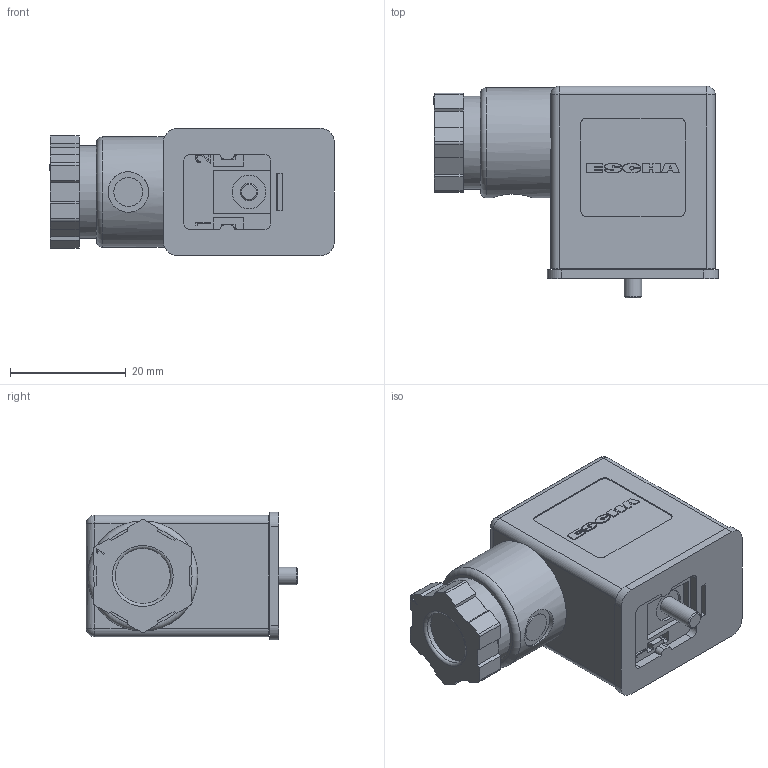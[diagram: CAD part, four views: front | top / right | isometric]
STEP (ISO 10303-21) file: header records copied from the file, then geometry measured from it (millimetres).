
FILE_DESCRIPTION(/* description */ (''),/* implementation_level */ '2;1');
FILE_NAME(/* name */ 'VC-BC21-11.024-K.stp',/* time_stamp */ '2017-10-18T15:41:02+02:00',/* author */ (''),/* organization */ (''),/* preprocessor_version */ 'ST-DEVELOPER v16',/* originating_system */ 'SIEMENS PLM Software NX 10.0',/* authorisation */ '');
FILE_SCHEMA (('AUTOMOTIVE_DESIGN { 1 0 10303 214 3 1 1 1 }'));
Length unit declared in the file: millimetre
Products named in the file (1): VC-BC21-11.024-K
Bounding box: 49.15 x 36.5 x 22 mm (x, y, z)
Volume: 23977.2 mm3; surface area: 7036.2 mm2
Topology: 1 solids, 1 shells, 965 faces, 2755 edges, 1827 vertices
Faces by surface type: plane 804, cylinder 144, bspline 8, sphere 6, torus 2, cone 1
Full cylindrical faces by diameter (mm): 3 x1, 5 x1, 5.8 x1, 7 x1, 7.2 x1, 9.5 x1, 16 x1, 19 x1
Entity records: 31445 total; most frequent: CARTESIAN_POINT 6081, ORIENTED_EDGE 5468, DIRECTION 4943, EDGE_CURVE 2734, LINE 2401, VECTOR 2401, VERTEX_POINT 1821, AXIS2_PLACEMENT_3D 1271
